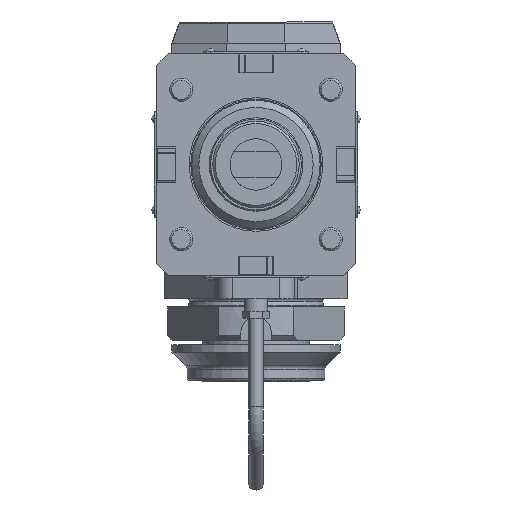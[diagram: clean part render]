
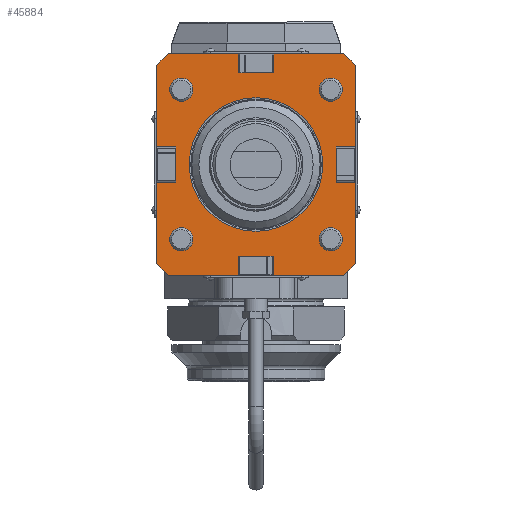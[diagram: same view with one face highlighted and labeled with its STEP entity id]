
A CAD part, left-side view. The second image highlights one B-rep face of the part: STEP entity #45884.
In plain terms, the highlighted planar face has unit normal (-1, 0, 0).
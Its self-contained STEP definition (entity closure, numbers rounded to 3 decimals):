
#788=VECTOR('',#33362,1.);
#818=VECTOR('',#33422,1.);
#824=VECTOR('',#33434,1.);
#825=VECTOR('',#33435,1.);
#826=VECTOR('',#33436,1.);
#827=VECTOR('',#33437,1.);
#828=VECTOR('',#33438,1.);
#829=VECTOR('',#33439,1.);
#1807=LINE('',#41123,#788);
#1837=LINE('',#41194,#818);
#1843=LINE('',#41208,#824);
#1844=LINE('',#41210,#825);
#1845=LINE('',#41212,#826);
#1846=LINE('',#41214,#827);
#1847=LINE('',#41216,#828);
#1848=LINE('',#41217,#829);
#15040=ORIENTED_EDGE('',*,*,#19318,.F.);
#15041=ORIENTED_EDGE('',*,*,#19326,.T.);
#15042=ORIENTED_EDGE('',*,*,#19283,.F.);
#15043=ORIENTED_EDGE('',*,*,#19327,.T.);
#15044=ORIENTED_EDGE('',*,*,#19328,.F.);
#15045=ORIENTED_EDGE('',*,*,#19329,.T.);
#15046=ORIENTED_EDGE('',*,*,#19330,.F.);
#15047=ORIENTED_EDGE('',*,*,#19331,.T.);
#15048=ORIENTED_EDGE('',*,*,#19332,.F.);
#16955=CIRCLE('',#44909,28.603);
#17792=VERTEX_POINT('',#41120);
#17793=VERTEX_POINT('',#41122);
#17818=VERTEX_POINT('',#41192);
#17819=VERTEX_POINT('',#41193);
#17825=VERTEX_POINT('',#41209);
#17826=VERTEX_POINT('',#41211);
#17827=VERTEX_POINT('',#41213);
#17828=VERTEX_POINT('',#41215);
#17829=VERTEX_POINT('',#41218);
#19283=EDGE_CURVE('',#17792,#17793,#1807,.T.);
#19318=EDGE_CURVE('',#17818,#17819,#1837,.T.);
#19326=EDGE_CURVE('',#17818,#17793,#1843,.T.);
#19327=EDGE_CURVE('',#17792,#17825,#1844,.T.);
#19328=EDGE_CURVE('',#17826,#17825,#1845,.T.);
#19329=EDGE_CURVE('',#17826,#17827,#1846,.T.);
#19330=EDGE_CURVE('',#17828,#17827,#1847,.T.);
#19331=EDGE_CURVE('',#17828,#17819,#1848,.T.);
#19332=EDGE_CURVE('',#17829,#17829,#16955,.T.);
#20847=EDGE_LOOP('',(#15040,#15041,#15042,#15043,#15044,#15045,#15046,#15047));
#20848=EDGE_LOOP('',(#15048));
#21983=FACE_BOUND('',#20847,.T.);
#21984=FACE_BOUND('',#20848,.T.);
#22655=PLANE('',#44908);
#33362=DIRECTION('',(0.,-85.,0.));
#33422=DIRECTION('',(0.,0.,-75.));
#33432=DIRECTION('',(-1.,0.,0.));
#33433=DIRECTION('',(0.,1.,0.));
#33434=DIRECTION('',(0.,5.,5.));
#33435=DIRECTION('',(0.,5.,-5.));
#33436=DIRECTION('',(0.,0.,75.));
#33437=DIRECTION('',(0.,-5.,-5.));
#33438=DIRECTION('',(0.,85.,0.));
#33439=DIRECTION('',(0.,-5.,5.));
#33440=DIRECTION('',(-1.,0.,0.));
#33441=DIRECTION('',(0.,0.,28.603));
#41120=CARTESIAN_POINT('',(-564.608,-51.668,42.5));
#41122=CARTESIAN_POINT('',(-564.608,-136.668,42.5));
#41123=CARTESIAN_POINT('',(-564.608,-51.668,42.5));
#41192=CARTESIAN_POINT('',(-564.608,-141.668,37.5));
#41193=CARTESIAN_POINT('',(-564.608,-141.668,-37.5));
#41194=CARTESIAN_POINT('',(-564.608,-141.668,37.5));
#41207=CARTESIAN_POINT('',(-564.608,-141.668,37.5));
#41208=CARTESIAN_POINT('',(-564.608,-141.668,37.5));
#41209=CARTESIAN_POINT('',(-564.608,-46.668,37.5));
#41210=CARTESIAN_POINT('',(-564.608,-51.668,42.5));
#41211=CARTESIAN_POINT('',(-564.608,-46.668,-37.5));
#41212=CARTESIAN_POINT('',(-564.608,-46.668,-37.5));
#41213=CARTESIAN_POINT('',(-564.608,-51.668,-42.5));
#41214=CARTESIAN_POINT('',(-564.608,-46.668,-37.5));
#41215=CARTESIAN_POINT('',(-564.608,-136.668,-42.5));
#41216=CARTESIAN_POINT('',(-564.608,-136.668,-42.5));
#41217=CARTESIAN_POINT('',(-564.608,-136.668,-42.5));
#41218=CARTESIAN_POINT('',(-564.608,-94.168,28.603));
#41219=CARTESIAN_POINT('',(-564.608,-94.168,0.));
#44908=AXIS2_PLACEMENT_3D('',#41207,#33432,#33433);
#44909=AXIS2_PLACEMENT_3D('',#41219,#33440,#33441);
#45884=ADVANCED_FACE('',(#21983,#21984),#22655,.T.);
